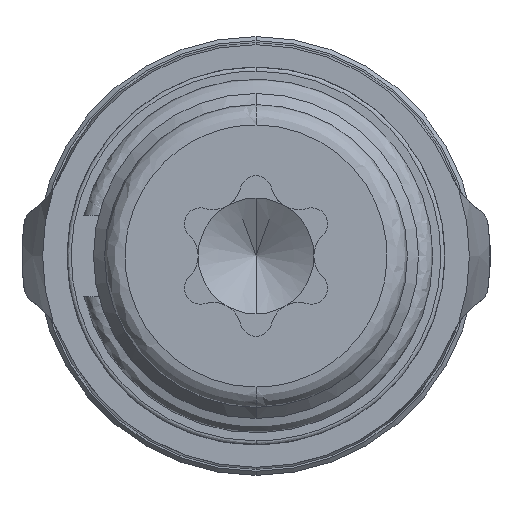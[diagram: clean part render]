
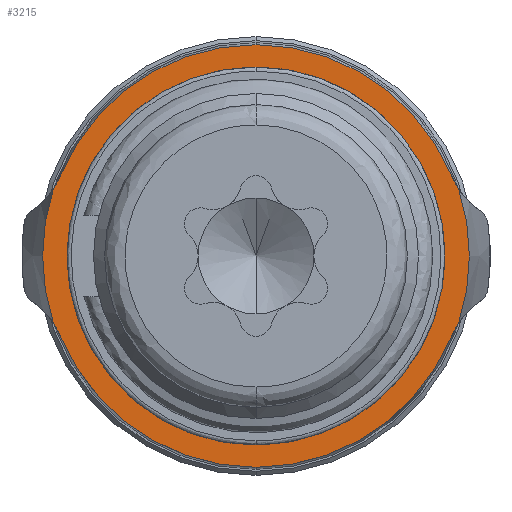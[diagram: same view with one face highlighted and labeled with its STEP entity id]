
A CAD part, front view. The second image highlights one B-rep face of the part: STEP entity #3215.
In plain terms, the highlighted planar face has unit normal (0, -1, 0).
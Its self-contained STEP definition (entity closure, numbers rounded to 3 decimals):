
#16 = ORIENTED_EDGE ( 'NONE', *, *, #1829, .T. ) ;
#94 = CARTESIAN_POINT ( 'NONE',  ( 4.984, 10.05, -1.655 ) ) ;
#120 = AXIS2_PLACEMENT_3D ( 'NONE', #1506, #1909, #342 ) ;
#154 = AXIS2_PLACEMENT_3D ( 'NONE', #3612, #1444, #2731 ) ;
#196 = CIRCLE ( 'NONE', #345, 2. ) ;
#201 = AXIS2_PLACEMENT_3D ( 'NONE', #3756, #3134, #1896 ) ;
#213 = CIRCLE ( 'NONE', #928, 5.2 ) ;
#271 = CARTESIAN_POINT ( 'NONE',  ( 0., 10.05, 0. ) ) ;
#342 = DIRECTION ( 'NONE',  ( 0., 0., 1. ) ) ;
#345 = AXIS2_PLACEMENT_3D ( 'NONE', #1510, #2476, #2533 ) ;
#468 = DIRECTION ( 'NONE',  ( 0., 1., 0. ) ) ;
#479 = AXIS2_PLACEMENT_3D ( 'NONE', #2485, #1134, #1110 ) ;
#489 = CARTESIAN_POINT ( 'NONE',  ( 0., 10.05, 5.2 ) ) ;
#529 = DIRECTION ( 'NONE',  ( 0., -1., 0. ) ) ;
#570 = VERTEX_POINT ( 'NONE', #1571 ) ;
#816 = ORIENTED_EDGE ( 'NONE', *, *, #1818, .F. ) ;
#928 = AXIS2_PLACEMENT_3D ( 'NONE', #2782, #2522, #2441 ) ;
#970 = VERTEX_POINT ( 'NONE', #1976 ) ;
#982 = VERTEX_POINT ( 'NONE', #1985 ) ;
#1014 = VERTEX_POINT ( 'NONE', #1979 ) ;
#1062 = VERTEX_POINT ( 'NONE', #1396 ) ;
#1106 = EDGE_CURVE ( 'NONE', #570, #1799, #1242, .T. ) ;
#1110 = DIRECTION ( 'NONE',  ( 0., 0., 1. ) ) ;
#1134 = DIRECTION ( 'NONE',  ( 0., 1., 0. ) ) ;
#1242 = CIRCLE ( 'NONE', #479, 2. ) ;
#1332 = VERTEX_POINT ( 'NONE', #2498 ) ;
#1344 = EDGE_CURVE ( 'NONE', #982, #970, #196, .T. ) ;
#1396 = CARTESIAN_POINT ( 'NONE',  ( -4.984, 10.05, 1.655 ) ) ;
#1399 = EDGE_CURVE ( 'NONE', #1014, #1062, #2725, .T. ) ;
#1444 = DIRECTION ( 'NONE',  ( 0., 1., 0. ) ) ;
#1450 = EDGE_CURVE ( 'NONE', #1062, #982, #3123, .T. ) ;
#1463 = ORIENTED_EDGE ( 'NONE', *, *, #2075, .F. ) ;
#1486 = ORIENTED_EDGE ( 'NONE', *, *, #3740, .F. ) ;
#1496 = ORIENTED_EDGE ( 'NONE', *, *, #1344, .T. ) ;
#1502 = DIRECTION ( 'NONE',  ( 0., 1., 0. ) ) ;
#1506 = CARTESIAN_POINT ( 'NONE',  ( 0., 10.05, 0. ) ) ;
#1510 = CARTESIAN_POINT ( 'NONE',  ( -6.648, 10.05, -2.765 ) ) ;
#1545 = CIRCLE ( 'NONE', #3634, 4.65 ) ;
#1571 = CARTESIAN_POINT ( 'NONE',  ( 4.801, 10.05, -1.997 ) ) ;
#1577 = CIRCLE ( 'NONE', #2559, 4.65 ) ;
#1603 = FACE_BOUND ( 'NONE', #3130, .T. ) ;
#1646 = ORIENTED_EDGE ( 'NONE', *, *, #1106, .T. ) ;
#1658 = CIRCLE ( 'NONE', #3650, 2. ) ;
#1721 = ORIENTED_EDGE ( 'NONE', *, *, #2226, .F. ) ;
#1724 = CIRCLE ( 'NONE', #3701, 5.2 ) ;
#1736 = EDGE_CURVE ( 'NONE', #3577, #3910, #213, .T. ) ;
#1799 = VERTEX_POINT ( 'NONE', #94 ) ;
#1808 = CIRCLE ( 'NONE', #120, 5.252 ) ;
#1818 = EDGE_CURVE ( 'NONE', #1332, #3274, #1545, .T. ) ;
#1829 = EDGE_CURVE ( 'NONE', #2266, #3910, #1658, .T. ) ;
#1879 = EDGE_LOOP ( 'NONE', ( #1721, #2913, #2975, #1496, #1463, #1646, #3900, #16, #2962 ) ) ;
#1896 = DIRECTION ( 'NONE',  ( 0., 0., 1. ) ) ;
#1909 = DIRECTION ( 'NONE',  ( 0., -1., 0. ) ) ;
#1937 = DIRECTION ( 'NONE',  ( 0., 0., 1. ) ) ;
#1976 = CARTESIAN_POINT ( 'NONE',  ( -4.801, 10.05, -1.997 ) ) ;
#1979 = CARTESIAN_POINT ( 'NONE',  ( -4.801, 10.05, 1.997 ) ) ;
#1984 = DIRECTION ( 'NONE',  ( 0., 0., -1. ) ) ;
#1985 = CARTESIAN_POINT ( 'NONE',  ( -4.984, 10.05, -1.655 ) ) ;
#2075 = EDGE_CURVE ( 'NONE', #570, #970, #3502, .T. ) ;
#2216 = CARTESIAN_POINT ( 'NONE',  ( 0., 10.05, 0. ) ) ;
#2226 = EDGE_CURVE ( 'NONE', #1014, #3577, #1724, .T. ) ;
#2258 = DIRECTION ( 'NONE',  ( 0., 1., 0. ) ) ;
#2266 = VERTEX_POINT ( 'NONE', #3231 ) ;
#2342 = AXIS2_PLACEMENT_3D ( 'NONE', #3526, #529, #1984 ) ;
#2439 = EDGE_CURVE ( 'NONE', #1799, #2266, #1808, .T. ) ;
#2441 = DIRECTION ( 'NONE',  ( 0., 0., 1. ) ) ;
#2476 = DIRECTION ( 'NONE',  ( 0., 1., 0. ) ) ;
#2485 = CARTESIAN_POINT ( 'NONE',  ( 6.648, 10.05, -2.765 ) ) ;
#2498 = CARTESIAN_POINT ( 'NONE',  ( 0., 10.05, 4.65 ) ) ;
#2522 = DIRECTION ( 'NONE',  ( 0., 1., 0. ) ) ;
#2533 = DIRECTION ( 'NONE',  ( 0., 0., 1. ) ) ;
#2559 = AXIS2_PLACEMENT_3D ( 'NONE', #3583, #3578, #3571 ) ;
#2695 = CARTESIAN_POINT ( 'NONE',  ( 6.648, 10.05, 2.765 ) ) ;
#2711 = CARTESIAN_POINT ( 'NONE',  ( 4.801, 10.05, 1.997 ) ) ;
#2725 = CIRCLE ( 'NONE', #154, 2. ) ;
#2731 = DIRECTION ( 'NONE',  ( 0., 0., 1. ) ) ;
#2734 = DIRECTION ( 'NONE',  ( 0., -1., 0. ) ) ;
#2782 = CARTESIAN_POINT ( 'NONE',  ( 0., 10.05, 0. ) ) ;
#2808 = DIRECTION ( 'NONE',  ( 0., 0., -1. ) ) ;
#2912 = FACE_OUTER_BOUND ( 'NONE', #1879, .T. ) ;
#2913 = ORIENTED_EDGE ( 'NONE', *, *, #1399, .T. ) ;
#2928 = CARTESIAN_POINT ( 'NONE',  ( 0., 10.05, -4.65 ) ) ;
#2962 = ORIENTED_EDGE ( 'NONE', *, *, #1736, .F. ) ;
#2975 = ORIENTED_EDGE ( 'NONE', *, *, #1450, .T. ) ;
#3123 = CIRCLE ( 'NONE', #201, 5.252 ) ;
#3130 = EDGE_LOOP ( 'NONE', ( #1486, #816 ) ) ;
#3134 = DIRECTION ( 'NONE',  ( 0., -1., 0. ) ) ;
#3185 = DIRECTION ( 'NONE',  ( 0., 0., 1. ) ) ;
#3215 = ADVANCED_FACE ( 'NONE', ( #2912, #1603 ), #3538, .T. ) ;
#3231 = CARTESIAN_POINT ( 'NONE',  ( 4.984, 10.05, 1.655 ) ) ;
#3274 = VERTEX_POINT ( 'NONE', #2928 ) ;
#3373 = DIRECTION ( 'NONE',  ( 0., 0., 1. ) ) ;
#3501 = CARTESIAN_POINT ( 'NONE',  ( 0., 10.05, 0. ) ) ;
#3502 = CIRCLE ( 'NONE', #3886, 5.2 ) ;
#3526 = CARTESIAN_POINT ( 'NONE',  ( 0., 10.05, 0. ) ) ;
#3538 = PLANE ( 'NONE',  #2342 ) ;
#3571 = DIRECTION ( 'NONE',  ( 0., 0., -1. ) ) ;
#3577 = VERTEX_POINT ( 'NONE', #489 ) ;
#3578 = DIRECTION ( 'NONE',  ( 0., -1., 0. ) ) ;
#3583 = CARTESIAN_POINT ( 'NONE',  ( 0., 10.05, 0. ) ) ;
#3612 = CARTESIAN_POINT ( 'NONE',  ( -6.648, 10.05, 2.765 ) ) ;
#3634 = AXIS2_PLACEMENT_3D ( 'NONE', #3501, #2734, #2808 ) ;
#3650 = AXIS2_PLACEMENT_3D ( 'NONE', #2695, #468, #3373 ) ;
#3701 = AXIS2_PLACEMENT_3D ( 'NONE', #271, #1502, #1937 ) ;
#3740 = EDGE_CURVE ( 'NONE', #3274, #1332, #1577, .T. ) ;
#3756 = CARTESIAN_POINT ( 'NONE',  ( 0., 10.05, 0. ) ) ;
#3886 = AXIS2_PLACEMENT_3D ( 'NONE', #2216, #2258, #3185 ) ;
#3900 = ORIENTED_EDGE ( 'NONE', *, *, #2439, .T. ) ;
#3910 = VERTEX_POINT ( 'NONE', #2711 ) ;
